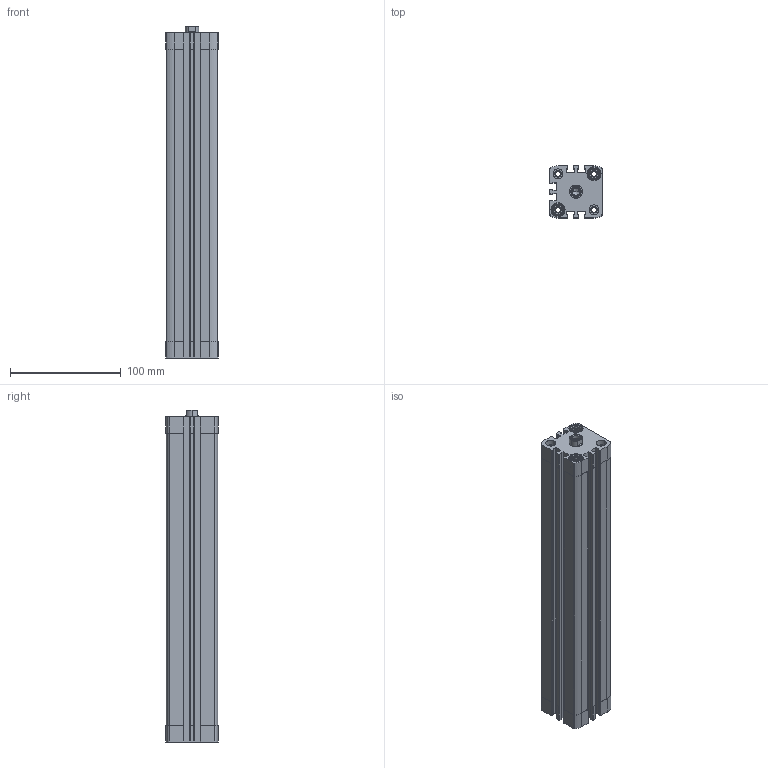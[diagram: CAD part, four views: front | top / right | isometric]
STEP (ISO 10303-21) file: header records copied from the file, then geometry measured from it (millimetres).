
FILE_DESCRIPTION (( 'STEP AP203' ), '1' );
FILE_NAME ('CCN32-250F.STEP', '2017-03-29T11:43:40', ( '' ), ( '' ), 'SwSTEP 2.0', 'SolidWorks 2016', '' );
FILE_SCHEMA (( 'CONFIG_CONTROL_DESIGN' ));
Length unit declared in the file: millimetre
Products named in the file (3): CCN32-250F; CCN-250---(Z); CCN-250_(KS)
Assembly tree (2 placements, depth 2):
  CCN32-250F
    CCN-250---(Z)
    CCN-250_(KS)
Bounding box: 47 x 47 x 300 mm (x, y, z)
Volume: 360343.8 mm3; surface area: 145829.2 mm2
Topology: 2 solids, 2 shells, 479 faces, 1298 edges, 853 vertices
Faces by surface type: plane 267, cylinder 170, cone 42
Entity records: 15589 total; most frequent: CARTESIAN_POINT 2927, DIRECTION 2652, ORIENTED_EDGE 2592, EDGE_CURVE 1296, AXIS2_PLACEMENT_3D 970, VERTEX_POINT 853, LINE 712, VECTOR 712
